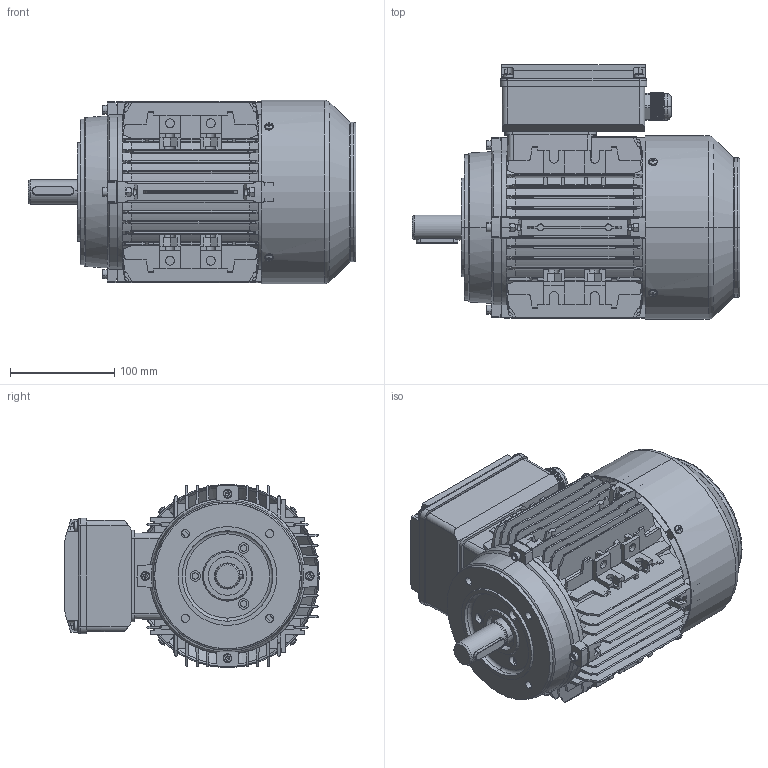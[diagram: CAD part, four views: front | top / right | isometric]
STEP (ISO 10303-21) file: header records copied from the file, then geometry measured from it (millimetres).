
FILE_DESCRIPTION (( 'STEP AP203' ), '1' );
FILE_NAME ('MY2 90S B14 臏 源倛.STEP', '2024-07-19T11:56:48', ( '' ), ( '' ), 'SwSTEP 2.0', 'SolidWorks 2023', '' );
FILE_SCHEMA (( 'CONFIG_CONTROL_DESIGN' ));
Length unit declared in the file: millimetre
Products named in the file (16): TA90B14法兰1; my80-100接线盒盖_方; TA90风罩; my80-100接线盒座_方; cross recessed thread forming screws gb_GB_CROSS_SCREWS_TYPE138 M4X12-N; hexagon nuts grade c gb_GB_FASTENER_NUT_SNC1 M5-N; 90风叶; 接线盒螺钉M5×12_GB_CROSS_SCREWS_TYPE1 M5X12-12  H type-N; hexagon socket head cap screws gbF_GB_FASTENER_SCREWS_HSHCS M5X25-N; TA90后盖1; 出线螺杆80-100_默认; T90S机壳; T90S转轴; MY2 90S B14 铝 方形; plain parallel keys_GB_CONNECTING_PIECE_KEYS_CSK 8X40; MY80(方形接线盒组合)
Assembly tree (35 placements, depth 3):
  MY2 90S B14 铝 方形
    T90S机壳
    T90S转轴
    TA90风罩
    TA90后盖1
    90风叶
    cross recessed thread forming screws gb_GB_CROSS_SCREWS_TYPE138 M4X12-N  x4
    plain parallel keys_GB_CONNECTING_PIECE_KEYS_CSK 8X40
    hexagon nuts grade c gb_GB_FASTENER_NUT_SNC1 M5-N  x8
    hexagon socket head cap screws gbF_GB_FASTENER_SCREWS_HSHCS M5X25-N  x8
    TA90B14法兰1
    MY80(方形接线盒组合)
      接线盒螺钉M5×12_GB_CROSS_SCREWS_TYPE1 M5X12-12  H type-N  x4
      出线螺杆80-100_默认
      my80-100接线盒座_方
      my80-100接线盒盖_方
Bounding box: 315 x 244.75 x 176.5 mm (x, y, z)
Volume: 1268067.6 mm3; surface area: 816078.1 mm2
Topology: 34 solids, 34 shells, 3650 faces, 9906 edges, 6375 vertices
Faces by surface type: plane 2252, cylinder 977, cone 213, torus 126, sphere 48, bspline 34
Entity records: 110857 total; most frequent: CARTESIAN_POINT 27771, ORIENTED_EDGE 17768, DIRECTION 15782, EDGE_CURVE 8884, VERTEX_POINT 5740, LINE 5614, VECTOR 5614, AXIS2_PLACEMENT_3D 5084
